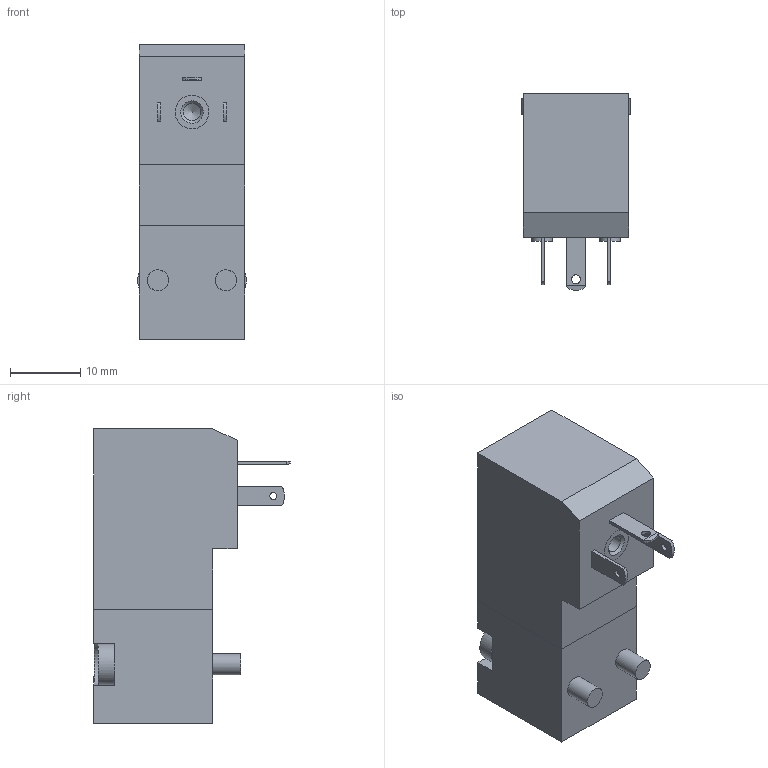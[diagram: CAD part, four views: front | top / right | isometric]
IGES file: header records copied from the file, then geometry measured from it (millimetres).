
Global section: file name: N3#9_R#; native system: Autodesk Inventor 2014; preprocessor: unknown; author: A. Manieri; organization: Pneumax S.p.A.; date: 20160919.133956; units: millimetre
Bounding box: 15.5 x 28.1 x 42 mm (x, y, z)
Volume: 11545.2 mm3; surface area: 3818.5 mm2
Topology: 1 solids, 1 shells, 96 faces, 248 edges, 164 vertices
Faces by surface type: bspline 96
